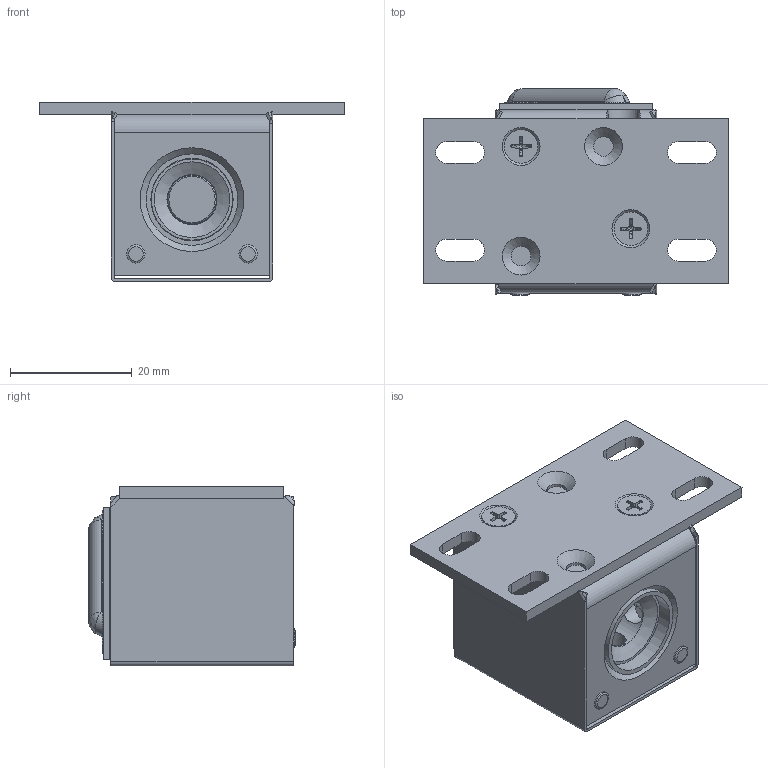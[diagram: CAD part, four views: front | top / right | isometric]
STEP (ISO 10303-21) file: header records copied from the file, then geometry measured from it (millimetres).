
FILE_DESCRIPTION (( 'STEP AP214' ), '1' );
FILE_NAME ('SH2LNOsD_v2.5.STEP', '2017-03-06T13:10:46', ( '1' ), ( 'MICROSOFT' ), 'SwSTEP 2.0', 'SolidWorks 2012', '' );
FILE_SCHEMA (( 'AUTOMOTIVE_DESIGN' ));
Length unit declared in the file: millimetre
Products named in the file (1): SH2LNOsD_v2.5
Bounding box: 50 x 33.9 x 29.5 mm (x, y, z)
Volume: 12559.3 mm3; surface area: 17896.7 mm2
Topology: 5 solids, 6 shells, 381 faces, 985 edges, 625 vertices
Faces by surface type: plane 150, cylinder 97, cone 88, bspline 46
Full cylindrical faces by diameter (mm): 2 x1, 2.459 x2, 2.693 x4, 3 x8, 3.2 x4, 3.3 x2, 4.2 x4, 5.5 x6, 6 x2, 8 x1, 8.2 x1, 9.2 x1, 9.4 x1, 13.3 x1, 13.5 x1, 15 x2, 16 x1, 16.4 x1, 17.8 x1, 17.9 x1, 18 x1, 19 x1, 20 x1
Entity records: 18407 total; most frequent: CARTESIAN_POINT 5980, ORIENTED_EDGE 1698, DIRECTION 1499, EDGE_CURVE 849, AXIS2_PLACEMENT_3D 584, VERTEX_POINT 574, EDGE_LOOP 513, FACE_OUTER_BOUND 429
